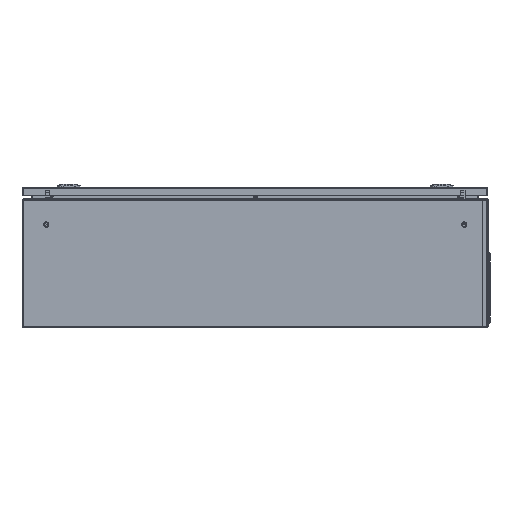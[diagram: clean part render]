
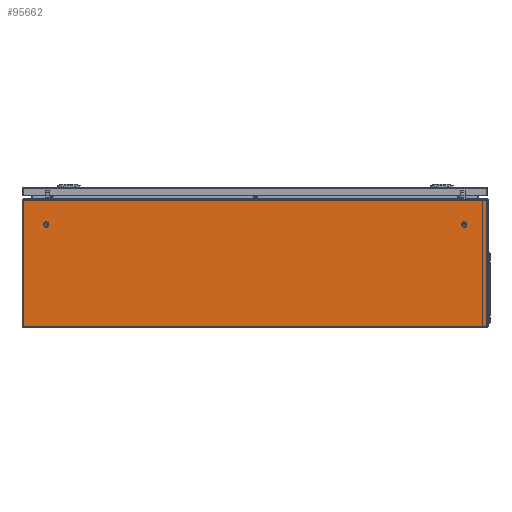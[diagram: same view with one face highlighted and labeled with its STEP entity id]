
A CAD part, left-side view. The second image highlights one B-rep face of the part: STEP entity #95662.
In plain terms, the highlighted planar face has unit normal (-1, 0, 0).
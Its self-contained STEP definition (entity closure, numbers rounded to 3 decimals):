
#4667 = EDGE_CURVE ( 'NONE', #130762, #83105, #68955, .T. ) ;
#5832 = AXIS2_PLACEMENT_3D ( 'NONE', #94147, #41054, #72781 ) ;
#6424 = EDGE_CURVE ( 'NONE', #130762, #15680, #112766, .T. ) ;
#7264 = CARTESIAN_POINT ( 'NONE',  ( -1.2, 135.1, -497.3 ) ) ;
#8623 = VECTOR ( 'NONE', #19335, 1000. ) ;
#10543 = VECTOR ( 'NONE', #79568, 1000. ) ;
#11845 = ORIENTED_EDGE ( 'NONE', *, *, #4667, .F. ) ;
#15680 = VERTEX_POINT ( 'NONE', #83932 ) ;
#19330 = DIRECTION ( 'NONE',  ( 0., 0., -1. ) ) ;
#19335 = DIRECTION ( 'NONE',  ( 0., 0., 1. ) ) ;
#20709 = CARTESIAN_POINT ( 'NONE',  ( -1.2, -135.1, -497.55 ) ) ;
#20767 = VECTOR ( 'NONE', #121748, 1000. ) ;
#26656 = CARTESIAN_POINT ( 'NONE',  ( -1.2, 135.1, -497.6 ) ) ;
#28894 = EDGE_CURVE ( 'NONE', #53791, #83105, #81400, .T. ) ;
#29557 = EDGE_CURVE ( 'NONE', #75435, #15680, #131887, .T. ) ;
#31610 = CARTESIAN_POINT ( 'NONE',  ( -1.2, -135.1, 497. ) ) ;
#34029 = VERTEX_POINT ( 'NONE', #31610 ) ;
#34900 = ORIENTED_EDGE ( 'NONE', *, *, #100313, .F. ) ;
#40369 = FACE_OUTER_BOUND ( 'NONE', #108137, .T. ) ;
#41054 = DIRECTION ( 'NONE',  ( 1., 0., 0. ) ) ;
#41110 = CARTESIAN_POINT ( 'NONE',  ( -1.2, -135.1, 498.8 ) ) ;
#41345 = ORIENTED_EDGE ( 'NONE', *, *, #6424, .T. ) ;
#43702 = VECTOR ( 'NONE', #58731, 1000. ) ;
#48371 = LINE ( 'NONE', #79428, #43702 ) ;
#53791 = VERTEX_POINT ( 'NONE', #125250 ) ;
#56809 = ORIENTED_EDGE ( 'NONE', *, *, #28894, .T. ) ;
#58731 = DIRECTION ( 'NONE',  ( 0., -1., 0. ) ) ;
#62077 = LINE ( 'NONE', #20709, #8623 ) ;
#62493 = LINE ( 'NONE', #41110, #81498 ) ;
#67086 = EDGE_CURVE ( 'NONE', #75435, #88846, #62077, .T. ) ;
#68955 = LINE ( 'NONE', #121960, #134614 ) ;
#72781 = DIRECTION ( 'NONE',  ( 0., 0., -1. ) ) ;
#73988 = ORIENTED_EDGE ( 'NONE', *, *, #108737, .F. ) ;
#75435 = VERTEX_POINT ( 'NONE', #98645 ) ;
#79428 = CARTESIAN_POINT ( 'NONE',  ( -1.2, 135.1, 497. ) ) ;
#79568 = DIRECTION ( 'NONE',  ( 0., 0., -1. ) ) ;
#81400 = LINE ( 'NONE', #82084, #118285 ) ;
#81498 = VECTOR ( 'NONE', #83178, 1000. ) ;
#82084 = CARTESIAN_POINT ( 'NONE',  ( -1.2, 135.1, 497. ) ) ;
#83105 = VERTEX_POINT ( 'NONE', #7264 ) ;
#83178 = DIRECTION ( 'NONE',  ( 0., 0., -1. ) ) ;
#83932 = CARTESIAN_POINT ( 'NONE',  ( -1.2, -135.1, -497.6 ) ) ;
#84306 = CARTESIAN_POINT ( 'NONE',  ( -1.2, -135.1, 496.95 ) ) ;
#87852 = CARTESIAN_POINT ( 'NONE',  ( -1.2, -135.1, 498.8 ) ) ;
#88846 = VERTEX_POINT ( 'NONE', #84306 ) ;
#89809 = ORIENTED_EDGE ( 'NONE', *, *, #67086, .T. ) ;
#94147 = CARTESIAN_POINT ( 'NONE',  ( -1.2, -135.1, -498.8 ) ) ;
#95662 = ADVANCED_FACE ( 'NONE', ( #40369 ), #115471, .F. ) ;
#98645 = CARTESIAN_POINT ( 'NONE',  ( -1.2, -135.1, -497.55 ) ) ;
#100313 = EDGE_CURVE ( 'NONE', #53791, #34029, #48371, .T. ) ;
#102094 = ORIENTED_EDGE ( 'NONE', *, *, #29557, .F. ) ;
#108137 = EDGE_LOOP ( 'NONE', ( #34900, #56809, #11845, #41345, #102094, #89809, #73988 ) ) ;
#108737 = EDGE_CURVE ( 'NONE', #34029, #88846, #62493, .T. ) ;
#112766 = LINE ( 'NONE', #26656, #20767 ) ;
#115471 = PLANE ( 'NONE',  #5832 ) ;
#118285 = VECTOR ( 'NONE', #19330, 1000. ) ;
#121748 = DIRECTION ( 'NONE',  ( 0., -1., 0. ) ) ;
#121960 = CARTESIAN_POINT ( 'NONE',  ( -1.2, 135.1, 498.8 ) ) ;
#123555 = CARTESIAN_POINT ( 'NONE',  ( -1.2, 135.1, -497.6 ) ) ;
#125250 = CARTESIAN_POINT ( 'NONE',  ( -1.2, 135.1, 497. ) ) ;
#130762 = VERTEX_POINT ( 'NONE', #123555 ) ;
#131887 = LINE ( 'NONE', #87852, #10543 ) ;
#134614 = VECTOR ( 'NONE', #135499, 1000. ) ;
#135499 = DIRECTION ( 'NONE',  ( 0., 0., 1. ) ) ;
